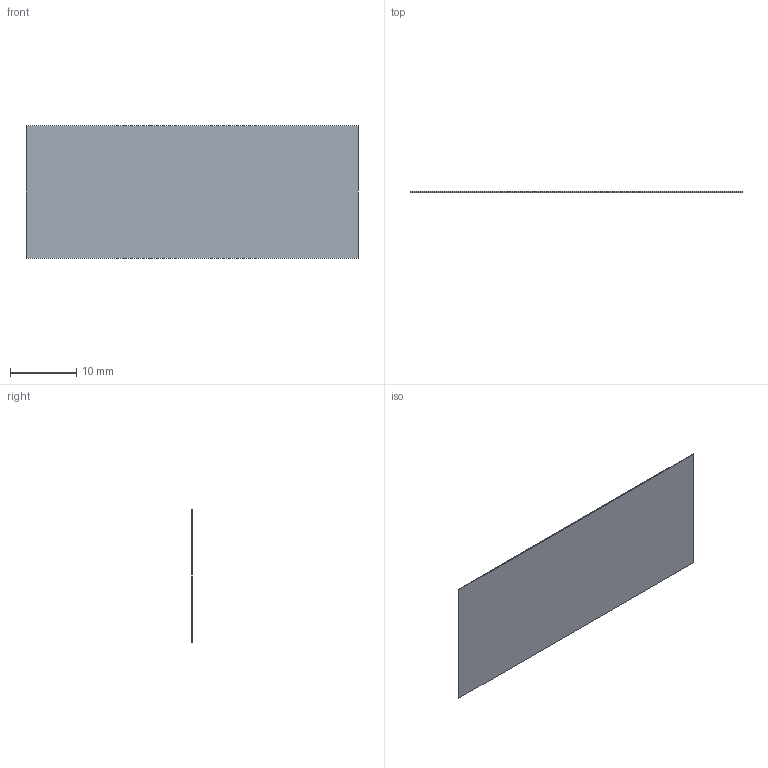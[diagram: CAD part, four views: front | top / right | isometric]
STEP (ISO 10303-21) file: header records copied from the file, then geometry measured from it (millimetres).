
FILE_DESCRIPTION(('Open CASCADE Model'),'2;1');
FILE_NAME('rear_grip_PSA_panel_0.13','2026-09-06T11:35:17',('Author'),( 'Open CASCADE'),'Open CASCADE STEP processor 7.8','build123d', 'Unknown');
FILE_SCHEMA(('AUTOMOTIVE_DESIGN { 1 0 10303 214 1 1 1 1 }'));
Length unit declared in the file: millimetre
Products named in the file (1): rear_grip_PSA_panel_0.13
Bounding box: 50 x 0.13 x 20 mm (x, y, z)
Volume: 130 mm3; surface area: 2018.2 mm2
Topology: 1 solids, 1 shells, 6 faces, 12 edges, 8 vertices
Faces by surface type: plane 6
Entity records: 315 total; most frequent: CARTESIAN_POINT 67, DIRECTION 34, ORIENTED_EDGE 24, PCURVE 24, DEFINITIONAL_REPRESENTATION 24, LINE 20, VECTOR 20, B_SPLINE_CURVE_WITH_KNOTS 16
